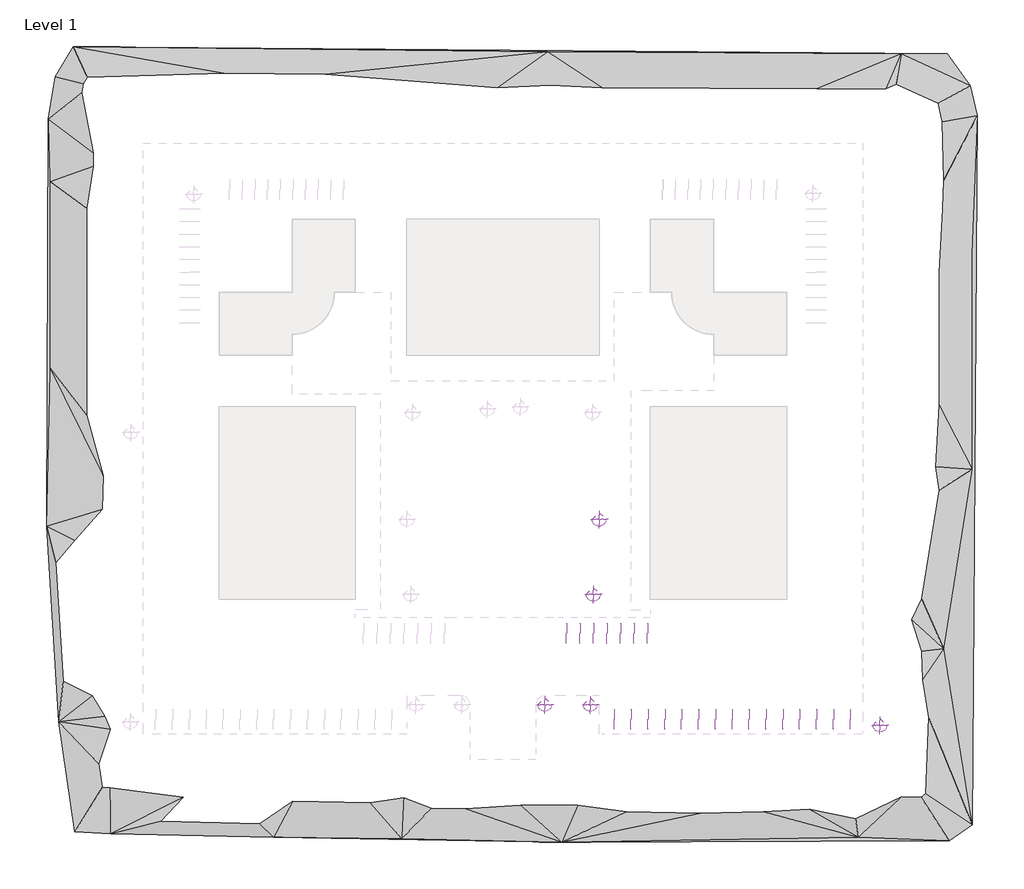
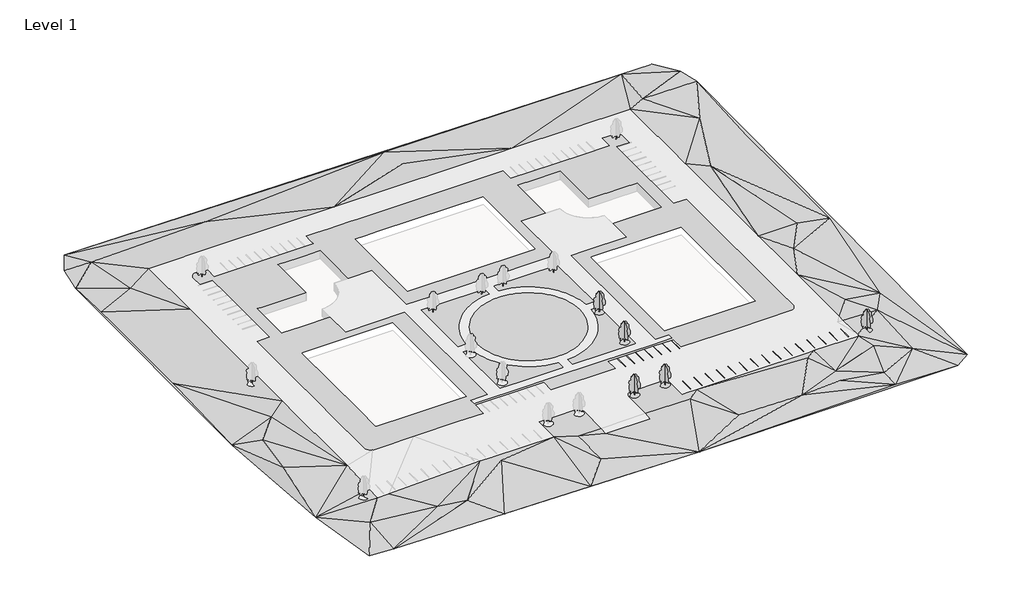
# One storey, part 2 of 3: 23 proxies, 5 geographic elements.
"""IFC4 building model written with IfcOpenShell, lengths in millimetres."""

from ifc_helpers import new_model, si_unit, origin, place, context, project, spatial, triangles, transform, mapped, element, save
from components import m_parking_space_4800_x_2400mm_90_deg_2b7ae786, m_parking_space_4800_x_2400mm_90_deg_cf846cf7, m_rpc_tree_deciduous_red_ash_7_6_meters_40acba24

model = new_model("IFC4")

# Units and contexts
model_context = context("Model", 3, world=origin())
ifc_project = project(units=[si_unit("LENGTHUNIT", "METRE", prefix="MILLI")], contexts=[model_context])

# Site, building, storey
site = spatial("IfcSite", under=ifc_project)
building = spatial("IfcBuilding", under=site)
storey = spatial("IfcBuildingStorey", under=building, Name="Level 1", Elevation=0.0)

# Proxies
placement = place(None, origin())
element("IfcBuildingElementProxy", 1, Name="Building Element Proxy", at=placement, inside=storey, context=model_context, shape_type="Tessellation", body=[
    triangles([(-102169.9776123, 90842.6318115, 0.0), (-106385.301709, 83676.5947998, 0.0), (-108071.4220459, 73559.8262695, 0.0), (-108492.9591064, -22970.9839233, 0.0), (-105542.2368896, -69339.4931763, 0.0), (-101748.4498535, -95474.4700195, 0.0), (-93317.8109619, -95896.0070801, 0.0), (-54536.8711304, -96739.0718994, 0.0), (13751.2978455, -98003.6644775, 0.0), (105645.2538574, -97582.127417, 0.0), (111125.1705322, -93788.3403809, 0.0), (112389.7631104, 74402.8910889, 0.0), (110703.6427734, 81568.9281006, 0.0), (105223.7260986, 89156.5021729, 0.0), (-85535.6813232, -72322.6413208, 1983.1879601), (-85535.6813232, -67074.5988647, 2206.9487206), (-85535.6813232, -53825.1843384, 3049.9998779), (-85535.6813232, -14016.0200592, 3049.9998779), (-85535.6813232, 17541.3572021, 3049.9998779), (-85535.6813232, 42777.6354126, 3049.9998779), (-85535.6813232, 67885.3586792, 3049.9998779), (-60150.6587036, 67885.3586792, 3049.9998779), (-19981.6152283, 67885.3586792, 3049.9998779), (43350.9678589, 67885.3586792, 3049.9998779), (85152.3186768, 67885.3586792, 3049.9998779), (85152.3186768, 34057.6467407, 3049.9998779), (85152.3186768, -10563.9423981, 3049.9998779), (85152.3186768, -26828.7577515, 3049.9998779), (85152.3186768, -34557.1511353, 3049.9998779), (85152.3186768, -53151.4626709, 3049.9998779), (85152.3186768, -60490.0798462, 3049.9998779), (85152.3186768, -62436.5610352, 2858.9560158), (85152.3186768, -71605.2292969, 3049.9998779), (85152.3186768, -72322.6413208, 3049.9998779), (69215.7286377, -72322.6413208, 3049.9998779), (66812.228833, -72322.6413208, 3049.9998779), (27666.706604, -72322.6413208, 3049.9998779), (23909.6359314, -72322.6413208, 3049.9998779), (22616.3195251, -72322.6413208, 3049.9998779), (22616.3195251, -63177.6413818, 3049.9998779), (19669.4412598, -63177.6413818, 3049.9998779), (9771.5802979, -63177.6413818, 3049.9998779), (9351.1100327, -63219.0574585, 3049.9998779), (8946.7975021, -63341.7011353, 3049.9998779), (8574.1812927, -63540.8703735, 3049.9998779), (8247.5802979, -63808.9051758, 3049.9998779), (7979.546077, -64135.5038452, 3049.9998779), (7780.3785828, -64508.1229614, 3049.9998779), (7657.7319992, -64912.4331665, 3049.9998779), (7616.3188293, -65332.9051758, 3049.9998779), (7616.3188293, -75662.4746704, 3049.9998779), (7616.3188293, -78418.6459717, 2673.7301125), (-7999.6808945, -78418.6459717, 2673.7301125), (-7999.6808945, -75662.4746704, 3049.9998779), (-7999.6808945, -65332.9051758, 3049.9998779), (-8041.093483, -64912.4331665, 3049.9998779), (-8163.7406479, -64508.1229614, 3049.9998779), (-8362.9081421, -64135.5038452, 3049.9998779), (-8630.942363, -63808.9051758, 3049.9998779), (-8957.5433578, -63540.8703735, 3049.9998779), (-9330.1595673, -63341.7011353, 3049.9998779), (-9734.4715164, -63219.0574585, 3049.9998779), (-10154.9429443, -63177.6413818, 3049.9998779), (-16508.3272339, -63177.6413818, 3049.9998779), (-22999.6798462, -63177.6413818, 3049.9998779), (-22999.6798462, -69598.8029297, 3049.9998779), (-22999.6798462, -72322.6413208, 3049.9998779), (-45175.5681152, -72322.6413208, 3049.9998779), (-48930.6040283, -72322.6413208, 3049.9998779), (-81381.8232422, -72322.6413208, 2006.5802822), (-35191.6798462, 5349.3572021, 3049.9998779), (-67499.679895, 5349.3572021, 3049.9998779), (-67499.679895, -30046.6427307, 3049.9998779), (-67499.679895, -40071.9028931, 3049.9998779), (-67499.679895, -40266.6444946, 3049.9998779), (-67364.8788208, -40266.6444946, 3049.9998779), (-56001.1957031, -40266.6444946, 3049.9998779), (-35191.6798462, -40266.6444946, 3049.9998779), (22616.3195251, 17541.3572021, 3049.9998779), (22616.3195251, 49849.357251, 3049.9998779), (-14525.1052643, 49849.357251, 3049.9998779), (-19503.6444031, 49849.357251, 3049.9998779), (-22999.6798462, 49849.357251, 3049.9998779), (-22999.6798462, 17541.3572021, 3049.9998779), (-18647.4536407, 17541.3572021, 3049.9998779), (-4750.8262939, 17541.3572021, 3049.9998779), (34808.3195251, -40266.6444946, 3049.9998779), (67116.3172485, -40266.6444946, 3049.9998779), (67116.3172485, 5349.3572021, 3049.9998779), (34808.3195251, 5349.3572021, 3049.9998779), (-76390.6813843, 17541.3572021, 3049.9998779), (-76390.6813843, -2590.5180405, 3049.9998779), (-76390.6813843, -22144.2111328, 3049.9998779), (-76390.6813843, -27227.4310913, 3049.9998779), (-76390.6813843, -48539.3813965, 3049.9998779), (-76349.2699585, -48959.8534058, 3049.9998779), (-76226.6216309, -49364.1636108, 3049.9998779), (-76027.4523926, -49736.7780762, 3049.9998779), (-75759.4175903, -50063.3813965, 3049.9998779), (-75432.8189209, -50331.4161987, 3049.9998779), (-75060.2044556, -50530.585437, 3049.9998779), (-74655.8895996, -50653.2291138, 3049.9998779), (-74235.4175903, -50694.6405396, 3049.9998779), (-60146.5705811, -50694.6405396, 3049.9998779), (-44268.6885864, -50694.6405396, 3049.9998779), (-35191.6798462, -50694.6405396, 3049.9998779), (-35191.6798462, -45694.6434082, 3049.9998779), (-16971.6419769, -45694.6434082, 3049.9998779), (-11191.6808258, -45694.6434082, 3049.9998779), (-11191.6808258, -50266.6434082, 3049.9998779), (11808.3187683, -50266.6434082, 3049.9998779), (11808.3187683, -45694.6434082, 3049.9998779), (14380.2350372, -45694.6434082, 3049.9998779), (27601.8896301, -45694.6434082, 3049.9998779), (34808.3195251, -45694.6434082, 3049.9998779), (34808.3195251, -50266.6434082, 3049.9998779), (55536.4473267, -50266.6434082, 3049.9998779), (73852.0595947, -50266.6434082, 3049.9998779), (74272.5269531, -50225.2319824, 3049.9998779), (74676.8418091, -50102.5836548, 3049.9998779), (75049.4562744, -49903.4144165, 3049.9998779), (75376.0595947, -49635.3796143, 3049.9998779), (75644.0897461, -49308.7809448, 3049.9998779), (75843.2589844, -48936.1618286, 3049.9998779), (75965.907312, -48531.8516235, 3049.9998779), (76007.3187378, -48111.3796143, 3049.9998779), (76007.3187378, -40266.6444946, 3049.9998779), (76007.3187378, -34066.0741333, 3049.9998779), (76007.3187378, 6598.6321106, 3049.9998779), (76007.3187378, 17541.3572021, 3049.9998779), (71435.3187378, 17541.3572021, 3049.9998779), (71435.3187378, 45158.1180176, 3049.9998779), (71435.3187378, 52541.3557251, 3049.9998779), (76007.3187378, 52541.3557251, 3049.9998779), (76007.3187378, 56585.0949463, 3049.9998779), (75965.907312, 57005.5669556, 3049.9998779), (75843.2589844, 57409.8771606, 3049.9998779), (75644.0897461, 57782.4962769, 3049.9998779), (75376.0595947, 58109.0949463, 3049.9998779), (75049.4562744, 58377.1297485, 3049.9998779), (74676.8418091, 58576.2989868, 3049.9998779), (74272.5269531, 58698.9426636, 3049.9998779), (73852.0595947, 58740.3587402, 3049.9998779), (69808.3203735, 58740.3587402, 3049.9998779), (69808.3203735, 54168.3587402, 3049.9998779), (60301.2448608, 54168.3587402, 3049.9998779), (50660.0054443, 54168.3587402, 3049.9998779), (41448.958374, 54168.3587402, 3049.9998779), (34808.3195251, 54168.3587402, 3049.9998779), (34808.3195251, 58740.3587402, 3049.9998779), (-17214.9375916, 58740.3587402, 3049.9998779), (-19739.2625793, 58740.3587402, 3049.9998779), (-27301.2963501, 58740.3587402, 3049.9998779), (-31889.525592, 58740.3587402, 3049.9998779), (-35191.6798462, 58740.3587402, 3049.9998779), (-35191.6798462, 56204.3786499, 3049.9998779), (-35191.6798462, 54168.3587402, 3049.9998779), (-37842.8319763, 54168.3587402, 3049.9998779), (-67067.1993164, 54168.3587402, 3049.9998779), (-70191.68302, 54168.3587402, 3049.9998779), (-70191.68302, 57954.0206909, 3049.9998779), (-70191.68302, 58740.3587402, 3049.9998779), (-74235.4175903, 58740.3587402, 3049.9998779), (-74655.8895996, 58698.9426636, 3049.9998779), (-75060.2044556, 58576.2989868, 3049.9998779), (-75432.8189209, 58377.1297485, 3049.9998779), (-75759.4175903, 58109.0949463, 3049.9998779), (-76027.4523926, 57782.4962769, 3049.9998779), (-76226.6216309, 57409.8771606, 3049.9998779), (-76349.2699585, 57005.5669556, 3049.9998779), (-76390.6813843, 56585.0949463, 3049.9998779), (-76390.6813843, 52541.3557251, 3049.9998779), (-75664.1257324, 52541.3557251, 3049.9998779), (-71818.6813843, 52541.3557251, 3049.9998779), (-71818.6813843, 44745.1385742, 3049.9998779), (-71818.6813843, 28075.6955933, 3049.9998779), (-71818.6813843, 17541.3572021, 3049.9998779), (67116.3172485, 17541.3572021, 3049.9998779), (49808.3178955, 17541.3572021, 3049.9998779), (49808.3178955, 9180.7314789, 3049.9998779), (35210.9461121, 9180.7314789, 3049.9998779), (30133.6467224, 9180.7314789, 3049.9998779), (30133.6467224, -27435.9834778, 3049.9998779), (30133.6467224, -42819.2700806, 3049.9998779), (34808.3195251, -42819.2700806, 3049.9998779), (34808.3195251, -44694.6439819, 3049.9998779), (27740.5509338, -44694.6439819, 3049.9998779), (14077.7000153, -44694.6439819, 3049.9998779), (11808.3187683, -44694.6439819, 3049.9998779), (-11191.6808258, -44694.6439819, 3049.9998779), (-16998.1438477, -44694.6439819, 3049.9998779), (-35191.6798462, -44694.6439819, 3049.9998779), (-35191.6798462, -42694.6404785, 3049.9998779), (-29191.6809631, -42694.6404785, 3049.9998779), (-29191.6809631, 8305.3575851, 3049.9998779), (-50191.680542, 8305.3575851, 3049.9998779), (-50191.680542, 17541.3572021, 3049.9998779), (-60277.078894, 17541.3572021, 3049.9998779), (-67499.679895, 17541.3572021, 3049.9998779), (-67499.679895, 31392.5861572, 3049.9998779), (-67499.679895, 32541.3578979, 3049.9998779), (-66003.8409668, 32541.3578979, 3049.9998779), (-50191.680542, 32541.3578979, 3049.9998779), (-50191.680542, 44684.7283081, 3049.9998779), (-50191.680542, 49849.357251, 3049.9998779), (-43466.7003296, 49849.357251, 3049.9998779), (-35191.6798462, 49849.357251, 3049.9998779), (-35191.6798462, 48882.337207, 3049.9998779), (-35191.6798462, 32541.3578979, 3049.9998779), (-26831.0552856, 32541.3578979, 3049.9998779), (-26831.0552856, 11541.3571564, 3049.9998779), (-18488.44823, 11541.3571564, 3049.9998779), (-2935.6202316, 11541.3571564, 3049.9998779), (26168.9445374, 11541.3571564, 3049.9998779), (26168.9445374, 32541.3578979, 3049.9998779), (34808.3195251, 32541.3578979, 3049.9998779), (34808.3195251, 49849.357251, 3049.9998779), (40850.0833008, 49849.357251, 3049.9998779), (49808.3178955, 49849.357251, 3049.9998779), (49808.3178955, 32541.3578979, 3049.9998779), (62183.8555298, 32541.3578979, 3049.9998779), (67116.3172485, 32541.3578979, 3049.9998779), (67116.3172485, 23284.5205994, 3049.9998779), (-21426.7688782, -15958.6421814, 3049.9998779), (-21275.5246216, -14517.4743347, 3049.9998779), (-21026.5863281, -13089.9335632, 3049.9998779), (-20681.1097412, -11682.6357422, 3049.9998779), (-20240.6924377, -10302.1014038, 3049.9998779), (-19707.3761536, -8954.727832, 3049.9998779), (-19083.6328308, -7646.7576691, 3049.9998779), (-18372.351828, -6384.2515915, 3049.9998779), (-18027.3240509, -5858.9429581, 3049.9998779), (-17576.8294556, -5173.0592422, 3049.9998779), (-16700.751535, -4018.7939415, 3049.9998779), (-15748.177121, -2926.8027466, 3049.9998779), (-14723.5210602, -1902.1463951, 3049.9998779), (-13631.5295746, -949.5721264, 3049.9998779), (-12477.2639832, -73.4940514, 3049.9998779), (-11266.0716339, 722.0285299, 3049.9998779), (-10003.5661377, 1433.3094601, 3049.9998779), (-8695.5959747, 2057.0529282, 3049.9998779), (-7348.222403, 2590.3689217, 3049.9998779), (-5967.6880646, 3030.7859344, 3049.9998779), (-4560.3902435, 3376.2636841, 3049.9998779), (-3132.8497627, 3625.2011055, 3049.9998779), (-1691.6808987, 3776.4450714, 3049.9998779), (-1691.6808987, 6776.4450943, 3049.9998779), (-18362.1733795, 6776.4450943, 3049.9998779), (-24426.7694824, 6776.4450943, 3049.9998779), (-24426.7694824, -15958.6421814, 3049.9998779), (-21426.7688782, -18958.6427856, 3049.9998779), (-24426.7694824, -18958.6427856, 3049.9998779), (-24426.7694824, -41693.72948, 3049.9998779), (-17077.6703888, -41693.72948, 3049.9998779), (-1691.6808987, -41693.72948, 3049.9998779), (-1691.6808987, -38693.7312012, 3049.9998779), (-3132.8497627, -38542.4869446, 3049.9998779), (-4560.3902435, -38293.5486511, 3049.9998779), (-5967.6880646, -37948.0720642, 3049.9998779), (-7348.222403, -37507.6547607, 3049.9998779), (-8695.5959747, -36974.3384766, 3049.9998779), (-10003.5661377, -36350.5951538, 3049.9998779), (-11266.0716339, -35639.3129883, 3049.9998779), (-12477.2639832, -34843.7917786, 3049.9998779), (-13631.5295746, -33967.7126953, 3049.9998779), (-14723.5210602, -33015.1382813, 3049.9998779), (-15748.177121, -31990.4822205, 3049.9998779), (-16700.751535, -30898.4907349, 3049.9998779), (-17387.7409973, -29993.3576111, 3049.9998779), (-17576.8294556, -29744.2263062, 3049.9998779), (-18372.351828, -28533.0327942, 3049.9998779), (-19083.6328308, -27270.5284607, 3049.9998779), (-19707.3761536, -25962.557135, 3049.9998779), (-20240.6924377, -24615.1835632, 3049.9998779), (-20681.1097412, -23234.6492249, 3049.9998779), (-21026.5863281, -21827.3514038, 3049.9998779), (-21275.5246216, -20399.8106323, 3049.9998779), (1308.3191242, 3776.4450714, 3049.9998779), (2749.4876976, 3625.2011055, 3049.9998779), (4177.0284691, 3376.2636841, 3049.9998779), (5584.3259995, 3030.7859344, 3049.9998779), (6964.8603378, 2590.3689217, 3049.9998779), (8312.2339096, 2057.0529282, 3049.9998779), (9620.2040726, 1433.3094601, 3049.9998779), (10882.7101501, 722.0285299, 3049.9998779), (12093.9024994, -73.4940514, 3049.9998779), (13248.1680908, -949.5721264, 3049.9998779), (14340.1584137, -1902.1463951, 3049.9998779), (15364.8156372, -2926.8027466, 3049.9998779), (16317.3900513, -4018.7939415, 3049.9998779), (17193.4679718, -5173.0592422, 3049.9998779), (17988.9903442, -6384.2515915, 3049.9998779), (18700.271347, -7646.7576691, 3049.9998779), (19324.0146698, -8954.727832, 3049.9998779), (19857.3297913, -10302.1014038, 3049.9998779), (20297.7470947, -11682.6357422, 3049.9998779), (20643.2260071, -13089.9335632, 3049.9998779), (20892.1619751, -14517.4743347, 3049.9998779), (21043.4062317, -15958.6421814, 3049.9998779), (24043.4068359, -15958.6421814, 3049.9998779), (24043.4068359, 6776.4450943, 3049.9998779), (1308.3191242, 6776.4450943, 3049.9998779), (21043.4062317, -18958.6427856, 3049.9998779), (20892.1619751, -20399.8106323, 3049.9998779), (20643.2260071, -21827.3514038, 3049.9998779), (20297.7470947, -23234.6492249, 3049.9998779), (19857.3297913, -24615.1835632, 3049.9998779), (19324.0146698, -25962.557135, 3049.9998779), (18700.271347, -27270.5284607, 3049.9998779), (17988.9903442, -28533.0327942, 3049.9998779), (17193.4679718, -29744.2263062, 3049.9998779), (16317.3900513, -30898.4907349, 3049.9998779), (15364.8156372, -31990.4822205, 3049.9998779), (14340.1584137, -33015.1382813, 3049.9998779), (13248.1680908, -33967.7126953, 3049.9998779), (12093.9024994, -34843.7917786, 3049.9998779), (11262.6544006, -35389.7631042, 3049.9998779), (10882.7101501, -35639.3129883, 3049.9998779), (9620.2040726, -36350.5951538, 3049.9998779), (8312.2339096, -36974.3384766, 3049.9998779), (6964.8603378, -37507.6547607, 3049.9998779), (5584.3259995, -37948.0720642, 3049.9998779), (4177.0284691, -38293.5486511, 3049.9998779), (2749.4876976, -38542.4869446, 3049.9998779), (1308.3191242, -38693.7312012, 3049.9998779), (1308.3191242, -41693.72948, 3049.9998779), (13169.8217102, -41693.72948, 3049.9998779), (24043.4068359, -41693.72948, 3049.9998779), (24043.4068359, -18958.6427856, 3049.9998779), (-18479.6813232, -17458.6424835, 3049.9998779), (-18430.8936035, -18793.5807678, 3049.9998779), (-18284.7920563, -20121.3973938, 3049.9998779), (-18042.1568665, -21435.0055847, 3049.9998779), (-17704.2809784, -22727.3987915, 3049.9998779), (-17569.8531372, -23121.439856, 3049.9998779), (-17272.9677704, -23991.6820862, 3049.9998779), (-16750.5182648, -25221.1070435, 3049.9998779), (-16139.7206635, -26409.1159241, 3049.9998779), (-15443.8329071, -27549.3719055, 3049.9998779), (-14666.5687225, -28635.7869873, 3049.9998779), (-13812.0743683, -29662.5684998, 3049.9998779), (-12884.9100311, -30624.2377075, 3049.9998779), (-11890.0207581, -31515.6623657, 3049.9998779), (-10832.7166901, -32332.0846252, 3049.9998779), (-9718.6375992, -33069.1535889, 3049.9998779), (-8553.7284714, -33722.9322876, 3049.9998779), (-7344.2040436, -34289.9325623, 3049.9998779), (-6096.5179916, -34767.133667, 3049.9998779), (-4817.3265953, -35151.9845947, 3049.9998779), (-3513.4556007, -35442.4343079, 3049.9998779), (-2191.8615601, -35636.9317383, 3049.9998779), (-859.5957144, -35734.4420654, 3049.9998779), (476.2338309, -35734.4420654, 3049.9998779), (1808.4997856, -35636.9317383, 3049.9998779), (3130.0938263, -35442.4343079, 3049.9998779), (4433.9648209, -35151.9845947, 3049.9998779), (5713.1559265, -34767.133667, 3049.9998779), (6960.8419785, -34289.9325623, 3049.9998779), (8170.3664063, -33722.9322876, 3049.9998779), (9335.2761154, -33069.1535889, 3049.9998779), (10356.2399597, -32393.6901672, 3049.9998779), (10449.3552063, -32332.0846252, 3049.9998779), (11506.6592743, -31515.6623657, 3049.9998779), (12501.5473846, -30624.2377075, 3049.9998779), (13428.7128845, -29662.5684998, 3049.9998779), (14283.2072388, -28635.7869873, 3049.9998779), (15060.4714233, -27549.3719055, 3049.9998779), (15756.3591797, -26409.1159241, 3049.9998779), (16367.156781, -25221.1070435, 3049.9998779), (16889.6051239, -23991.6820862, 3049.9998779), (17320.9183319, -22727.3987915, 3049.9998779), (17658.79422, -21435.0055847, 3049.9998779), (17901.4305725, -20121.3973938, 3049.9998779), (18047.5321198, -18793.5807678, 3049.9998779), (18096.3186768, -17458.6424835, 3049.9998779), (18047.5321198, -16123.7041992, 3049.9998779), (17901.4305725, -14795.888736, 3049.9998779), (17658.79422, -13482.2793823, 3049.9998779), (17320.9183319, -12189.8861755, 3049.9998779), (16889.6051239, -10925.6040436, 3049.9998779), (16367.156781, -9696.1785049, 3049.9998779), (15756.3591797, -8508.169043, 3049.9998779), (15060.4714233, -7367.9142242, 3049.9998779), (14283.2072388, -6281.4979797, 3049.9998779), (13428.7128845, -5254.7164673, 3049.9998779), (12501.5473846, -4293.0478409, 3049.9998779), (11506.6592743, -3401.623764, 3049.9998779), (10449.3552063, -2585.1997604, 3049.9998779), (9335.2761154, -1848.1322502, 3049.9998779), (8170.3664063, -1194.3534061, 3049.9998779), (6960.8419785, -627.3516054, 3049.9998779), (5713.1559265, -150.152054, 3049.9998779), (4433.9648209, 234.699228, 3049.9998779), (3130.0938263, 525.1488685, 3049.9998779), (1808.4997856, 719.6472073, 3049.9998779), (476.2338309, 817.156517, 3049.9998779), (308.8186864, 817.156517, 3049.9998779), (-859.5957144, 817.156517, 3049.9998779), (-2191.8615601, 719.6472073, 3049.9998779), (-3513.4556007, 525.1488685, 3049.9998779), (-4817.3265953, 234.699228, 3049.9998779), (-6096.5179916, -150.152054, 3049.9998779), (-7344.2040436, -627.3516054, 3049.9998779), (-8553.7284714, -1194.3534061, 3049.9998779), (-9718.6375992, -1848.1322502, 3049.9998779), (-10832.7166901, -2585.1997604, 3049.9998779), (-11890.0207581, -3401.623764, 3049.9998779), (-12884.9100311, -4293.0478409, 3049.9998779), (-13812.0743683, -5254.7164673, 3049.9998779), (-14666.5687225, -6281.4979797, 3049.9998779), (-15443.8329071, -7367.9142242, 3049.9998779), (-16139.7206635, -8508.169043, 3049.9998779), (-16750.5182648, -9696.1785049, 3049.9998779), (-17272.9677704, -10925.6040436, 3049.9998779), (-17704.2809784, -12189.8861755, 3049.9998779), (-17845.2584198, -12729.1323303, 3049.9998779), (-18042.1568665, -13482.2793823, 3049.9998779), (-18284.7920563, -14795.888736, 3049.9998779), (-18430.8936035, -16123.7041992, 3049.9998779), (10379.0420563, 89578.0392334, 0.0), (94263.892749, 89156.5021729, 0.0), (111125.1705322, 42366.4651611, 0.0), (111125.1705322, -9481.9619293, 0.0), (104380.6612793, -52056.6829834, 0.0), (84147.1242188, -96739.0718994, 0.0), (-24186.5748413, -97160.5996582, 0.0), (-107649.8942871, 14545.3575165, 0.0), (-107649.8942871, 58806.2105347, 0.0), (-97954.6628174, 81568.9281006, 1524.999939), (11222.1068756, 79461.2707031, 1524.999939), (102273.0038818, 55012.4234985, 1524.999939), (100165.3371826, -8638.8976913, 1524.999939), (98057.6797852, -61330.3866943, 1524.999939), (97214.6149658, -84514.6459717, 1524.999939), (83304.0593994, -91259.1552246, 1524.999939), (33141.7654358, -88729.9607666, 1524.999939), (-15334.4047028, -87886.8959473, 1524.999939), (-71398.1489136, -84936.1737305, 1524.999939), (-93493.1118896, -82017.8774414, 1524.999939), (-100052.7580078, -27195.8632507, 1524.999939), (-91631.6813232, -17912.5996582, 1524.999939), (-94582.40354, 63443.0577393, 1524.999939), (-56644.5331787, 82833.5299805, 1524.999939), (70658.1057129, -83250.0440918, 1524.999939), (55482.9575684, -89151.4978271, 1524.999939), (69393.5084839, -88308.4330078, 1524.999939), (91248.3186768, 70805.124646, 3049.9998779), (91248.3186768, 29124.4641357, 3049.9998779), (91248.3186768, -22004.4080383, 3049.9998779), (65599.7214478, -74819.4098511, 3049.9998779), (23446.5316406, -75662.4746704, 3049.9998779), (-16177.4683594, -75662.4746704, 3049.9998779), (-43155.510022, -75240.9422607, 3049.9998779), (-62967.510022, -88535.4052002, 3049.9998779), (-103013.0424316, -44993.4350464, 3049.9998779), (86676.3186768, -79034.7292969, 3049.9998779), (91248.3186768, -53547.5873291, 3049.9998779)], [[5, 6, 439], [439, 6, 7], [5, 439, 15], [15, 16, 5], [439, 70, 15], [439, 7, 438], [70, 439, 438], [5, 16, 17], [97, 98, 99], [100, 101, 95], [96, 99, 100], [97, 99, 96], [102, 95, 101], [5, 17, 455], [7, 454, 438], [454, 7, 8], [454, 8, 453], [438, 454, 69], [453, 67, 68], [453, 69, 454], [68, 69, 453], [453, 426, 67], [453, 8, 426], [8, 9, 426], [76, 103, 104], [77, 104, 105], [107, 108, 191], [64, 65, 66], [103, 95, 102], [66, 67, 452], [70, 438, 69], [107, 105, 106], [96, 100, 95], [455, 17, 440], [75, 95, 103], [77, 76, 104], [103, 76, 75], [107, 192, 105], [74, 95, 75], [4, 440, 441], [440, 4, 455], [440, 17, 441], [4, 441, 427], [74, 73, 94], [93, 94, 73], [92, 93, 73], [95, 74, 94], [441, 17, 18], [105, 192, 193], [455, 4, 5], [193, 194, 78], [78, 77, 105], [78, 105, 193], [273, 274, 253], [192, 107, 191], [274, 252, 253], [272, 253, 271], [272, 273, 253], [252, 277, 251], [277, 252, 276], [274, 275, 252], [275, 276, 252], [78, 194, 71], [67, 426, 437], [55, 63, 64], [437, 452, 67], [64, 452, 55], [61, 62, 63], [109, 112, 190], [60, 61, 63], [452, 437, 53], [267, 253, 254], [190, 191, 108], [254, 261, 262], [263, 254, 262], [255, 259, 260], [190, 108, 109], [254, 263, 264], [63, 58, 59], [58, 63, 57], [109, 110, 111], [56, 63, 55], [57, 63, 56], [55, 452, 54], [63, 59, 60], [261, 254, 260], [260, 254, 255], [257, 258, 255], [258, 259, 255], [54, 452, 53], [437, 9, 53], [271, 253, 270], [253, 269, 270], [268, 253, 267], [337, 338, 335], [268, 269, 253], [419, 330, 416], [335, 331, 332], [335, 330, 331], [337, 335, 336], [333, 334, 335], [332, 333, 335], [335, 350, 351], [335, 338, 339], [264, 265, 254], [350, 335, 349], [349, 335, 348], [347, 348, 335], [335, 346, 347], [342, 335, 341], [335, 342, 343], [335, 345, 346], [335, 344, 345], [344, 335, 343], [335, 340, 341], [335, 339, 340], [265, 266, 254], [267, 254, 266], [416, 330, 335], [416, 335, 361], [64, 66, 452], [426, 9, 437], [427, 18, 19], [18, 427, 441], [427, 19, 20], [177, 72, 199], [92, 72, 91], [72, 177, 91], [199, 176, 177], [173, 174, 171], [176, 200, 201], [200, 176, 199], [159, 174, 175], [201, 175, 176], [202, 175, 201], [427, 20, 428], [198, 196, 197], [196, 198, 72], [71, 194, 195], [195, 196, 71], [207, 208, 83], [72, 92, 73], [196, 72, 71], [175, 204, 159], [204, 202, 203], [204, 175, 202], [158, 205, 206], [83, 157, 207], [205, 159, 204], [209, 210, 208], [198, 199, 72], [158, 206, 207], [166, 170, 165], [171, 165, 170], [168, 169, 167], [166, 167, 169], [169, 170, 166], [172, 173, 171], [2, 3, 429], [428, 3, 427], [442, 3, 428], [442, 21, 429], [442, 20, 21], [443, 1, 429], [1, 2, 429], [443, 429, 21], [429, 3, 442], [20, 442, 428], [171, 163, 164], [171, 174, 163], [161, 163, 160], [174, 160, 163], [159, 205, 158], [157, 154, 156], [159, 160, 174], [171, 164, 165], [161, 162, 163], [22, 443, 21], [155, 156, 154], [443, 22, 23], [157, 153, 154], [153, 157, 83], [207, 157, 158], [1, 443, 420], [427, 3, 4], [250, 227, 228], [226, 227, 250], [417, 418, 416], [414, 415, 416], [403, 404, 397], [250, 228, 249], [249, 228, 229], [230, 231, 249], [232, 233, 249], [231, 232, 249], [249, 229, 230], [412, 416, 411], [416, 412, 413], [409, 410, 416], [408, 409, 416], [410, 411, 416], [414, 416, 413], [235, 236, 248], [234, 235, 248], [407, 416, 406], [405, 406, 416], [408, 416, 407], [405, 416, 404], [418, 419, 416], [233, 234, 249], [84, 211, 212], [241, 242, 248], [248, 249, 234], [86, 85, 212], [212, 85, 84], [236, 237, 248], [152, 153, 83], [210, 84, 83], [83, 208, 210], [82, 81, 151], [151, 152, 82], [81, 80, 151], [82, 152, 83], [80, 150, 151], [237, 238, 248], [210, 211, 84], [240, 248, 239], [401, 402, 397], [397, 400, 401], [402, 403, 397], [399, 400, 397], [242, 247, 248], [243, 247, 242], [247, 243, 244], [212, 213, 86], [247, 244, 245], [248, 240, 241], [239, 248, 238], [86, 213, 79], [397, 404, 416], [250, 225, 226], [250, 224, 225], [443, 23, 420], [352, 335, 351], [42, 49, 50], [50, 39, 42], [48, 49, 42], [42, 47, 48], [451, 51, 52], [325, 326, 324], [323, 324, 326], [322, 326, 327], [323, 326, 322], [255, 256, 257], [45, 42, 44], [42, 45, 46], [44, 42, 43], [46, 47, 42], [39, 50, 51], [189, 190, 112], [319, 320, 327], [327, 321, 322], [320, 321, 327], [112, 113, 188], [314, 327, 328], [188, 189, 112], [319, 327, 318], [188, 113, 187], [109, 111, 112], [52, 53, 9], [361, 352, 353], [354, 361, 353], [327, 317, 318], [361, 354, 355], [361, 355, 356], [361, 357, 358], [361, 358, 359], [361, 397, 416], [362, 363, 361], [361, 359, 360], [361, 356, 357], [364, 361, 363], [315, 316, 327], [328, 313, 314], [328, 311, 312], [312, 313, 328], [315, 327, 314], [367, 361, 366], [361, 367, 368], [369, 361, 368], [370, 371, 361], [369, 370, 361], [365, 366, 361], [310, 311, 328], [364, 365, 361], [327, 316, 317], [372, 361, 371], [52, 9, 451], [352, 361, 335], [436, 37, 451], [436, 451, 9], [436, 9, 445], [445, 37, 436], [444, 450, 445], [444, 446, 435], [450, 37, 445], [35, 450, 444], [444, 445, 446], [445, 425, 446], [36, 450, 35], [41, 39, 40], [41, 42, 39], [38, 39, 451], [451, 37, 38], [450, 36, 37], [35, 444, 34], [39, 51, 451], [444, 456, 34], [425, 435, 446], [434, 435, 425], [10, 11, 434], [456, 434, 34], [456, 435, 434], [434, 433, 34], [434, 425, 10], [425, 9, 10], [433, 434, 11], [457, 30, 31], [433, 31, 32], [433, 457, 31], [433, 33, 34], [30, 457, 29], [424, 457, 433], [433, 11, 424], [433, 32, 33], [11, 423, 424], [444, 435, 456], [9, 425, 445], [29, 457, 424], [187, 114, 115], [115, 186, 187], [115, 116, 117], [185, 186, 117], [115, 117, 186], [184, 185, 87], [309, 328, 308], [308, 328, 307], [183, 184, 87], [307, 329, 306], [328, 329, 307], [310, 328, 309], [185, 117, 87], [113, 114, 187], [88, 117, 118], [118, 119, 126], [120, 126, 119], [125, 121, 122], [123, 124, 122], [120, 121, 126], [125, 122, 124], [88, 126, 127], [118, 126, 88], [89, 88, 128], [128, 88, 127], [126, 121, 125], [449, 28, 29], [29, 424, 449], [117, 88, 87], [424, 423, 449], [28, 449, 27], [379, 380, 397], [397, 378, 379], [397, 361, 377], [397, 377, 378], [361, 374, 375], [373, 374, 361], [381, 397, 380], [385, 397, 384], [383, 384, 397], [397, 382, 383], [301, 289, 290], [382, 397, 381], [397, 385, 386], [361, 376, 377], [304, 305, 329], [304, 329, 303], [301, 292, 293], [301, 291, 292], [300, 296, 297], [295, 296, 300], [300, 301, 295], [300, 297, 298], [361, 375, 376], [301, 290, 291], [392, 397, 391], [396, 397, 395], [393, 394, 397], [395, 397, 394], [397, 392, 393], [397, 398, 399], [247, 245, 246], [280, 281, 302], [278, 279, 302], [280, 302, 279], [302, 281, 282], [397, 389, 390], [389, 397, 388], [301, 286, 287], [287, 288, 301], [397, 390, 391], [301, 283, 284], [301, 284, 285], [24, 420, 430], [430, 420, 23], [301, 285, 286], [302, 282, 301], [301, 282, 283], [301, 288, 289], [388, 397, 387], [386, 387, 397], [298, 299, 300], [361, 372, 373], [294, 295, 301], [182, 90, 181], [301, 293, 294], [180, 181, 90], [183, 90, 182], [87, 90, 183], [79, 213, 214], [79, 215, 80], [214, 215, 79], [217, 215, 216], [80, 215, 217], [179, 180, 178], [89, 131, 178], [131, 89, 129], [178, 131, 223], [449, 432, 27], [329, 305, 306], [27, 448, 26], [27, 432, 448], [130, 131, 129], [129, 89, 128], [89, 180, 90], [448, 432, 423], [222, 132, 221], [132, 222, 131], [223, 131, 222], [220, 221, 219], [448, 431, 26], [423, 422, 448], [132, 146, 221], [423, 12, 422], [178, 180, 89], [448, 422, 431], [217, 218, 149], [149, 218, 148], [149, 150, 80], [147, 219, 146], [133, 145, 132], [147, 148, 219], [221, 146, 219], [219, 148, 218], [430, 23, 24], [133, 143, 145], [142, 143, 135], [143, 144, 145], [132, 145, 146], [143, 133, 135], [149, 80, 217], [138, 140, 137], [136, 137, 141], [136, 141, 142], [136, 142, 135], [138, 139, 140], [140, 141, 137], [25, 447, 421], [447, 25, 431], [25, 421, 24], [13, 421, 447], [421, 14, 420], [14, 421, 13], [13, 447, 12], [431, 12, 447], [431, 422, 12], [135, 133, 134], [431, 25, 26], [24, 421, 420], [423, 11, 12], [423, 432, 449], [420, 14, 1]], closed=False),
])
m_parking_space_4800_x_2400mm_90_deg_shape = m_parking_space_4800_x_2400mm_90_deg_2b7ae786(model_context)
element("IfcBuildingElementProxy", 2, Name="M_Parking Space : 4800 x 2400mm - 90 deg", ObjectType="M_Parking Space : 4800 x 2400mm - 90 deg", at=placement, inside=storey, context=model_context, shape_type="MappedRepresentation", body=[
    mapped(m_parking_space_4800_x_2400mm_90_deg_shape, transform((26208.3190688, -71177.6426237, 3050.7803686), x_axis=(-1.0, 0.0, 0.0), y_axis=(0.0, -1.0, 0.0), z_axis=(0.0, 0.0, 1.0))),
])
element("IfcBuildingElementProxy", 3, Name="M_Parking Space : 4800 x 2400mm - 90 deg", ObjectType="M_Parking Space : 4800 x 2400mm - 90 deg", at=placement, inside=storey, context=model_context, shape_type="MappedRepresentation", body=[
    mapped(m_parking_space_4800_x_2400mm_90_deg_shape, transform((30208.3190688, -71177.6426237, 3050.7803686), x_axis=(-1.0, 0.0, 0.0), y_axis=(0.0, -1.0, 0.0), z_axis=(0.0, 0.0, 1.0))),
])
element("IfcBuildingElementProxy", 4, Name="M_Parking Space : 4800 x 2400mm - 90 deg", ObjectType="M_Parking Space : 4800 x 2400mm - 90 deg", at=placement, inside=storey, context=model_context, shape_type="MappedRepresentation", body=[
    mapped(m_parking_space_4800_x_2400mm_90_deg_shape, transform((34208.3190688, -71177.6426237, 3050.7803686), x_axis=(-1.0, 0.0, 0.0), y_axis=(0.0, -1.0, 0.0), z_axis=(0.0, 0.0, 1.0))),
])
element("IfcBuildingElementProxy", 5, Name="M_Parking Space : 4800 x 2400mm - 90 deg", ObjectType="M_Parking Space : 4800 x 2400mm - 90 deg", at=placement, inside=storey, context=model_context, shape_type="MappedRepresentation", body=[
    mapped(m_parking_space_4800_x_2400mm_90_deg_shape, transform((38208.3190688, -71177.6426237, 3050.7803686), x_axis=(-1.0, 0.0, 0.0), y_axis=(0.0, -1.0, 0.0), z_axis=(0.0, 0.0, 1.0))),
])
element("IfcBuildingElementProxy", 6, Name="M_Parking Space : 4800 x 2400mm - 90 deg", ObjectType="M_Parking Space : 4800 x 2400mm - 90 deg", at=placement, inside=storey, context=model_context, shape_type="MappedRepresentation", body=[
    mapped(m_parking_space_4800_x_2400mm_90_deg_shape, transform((42208.3190688, -71177.6426237, 3050.7803686), x_axis=(-1.0, 0.0, 0.0), y_axis=(0.0, -1.0, 0.0), z_axis=(0.0, 0.0, 1.0))),
])
element("IfcBuildingElementProxy", 7, Name="M_Parking Space : 4800 x 2400mm - 90 deg", ObjectType="M_Parking Space : 4800 x 2400mm - 90 deg", at=placement, inside=storey, context=model_context, shape_type="MappedRepresentation", body=[
    mapped(m_parking_space_4800_x_2400mm_90_deg_shape, transform((46208.3190688, -71177.6426237, 3050.7803686), x_axis=(-1.0, 0.0, 0.0), y_axis=(0.0, -1.0, 0.0), z_axis=(0.0, 0.0, 1.0))),
])
element("IfcBuildingElementProxy", 8, Name="M_Parking Space : 4800 x 2400mm - 90 deg", ObjectType="M_Parking Space : 4800 x 2400mm - 90 deg", at=placement, inside=storey, context=model_context, shape_type="MappedRepresentation", body=[
    mapped(m_parking_space_4800_x_2400mm_90_deg_shape, transform((50208.3190688, -71177.6426237, 3050.7803686), x_axis=(-1.0, 0.0, 0.0), y_axis=(0.0, -1.0, 0.0), z_axis=(0.0, 0.0, 1.0))),
])
element("IfcBuildingElementProxy", 9, Name="M_Parking Space : 4800 x 2400mm - 90 deg", ObjectType="M_Parking Space : 4800 x 2400mm - 90 deg", at=placement, inside=storey, context=model_context, shape_type="MappedRepresentation", body=[
    mapped(m_parking_space_4800_x_2400mm_90_deg_shape, transform((54208.3190688, -71177.6426237, 3050.7803686), x_axis=(-1.0, 0.0, 0.0), y_axis=(0.0, -1.0, 0.0), z_axis=(0.0, 0.0, 1.0))),
])
element("IfcBuildingElementProxy", 10, Name="M_Parking Space : 4800 x 2400mm - 90 deg", ObjectType="M_Parking Space : 4800 x 2400mm - 90 deg", at=placement, inside=storey, context=model_context, shape_type="MappedRepresentation", body=[
    mapped(m_parking_space_4800_x_2400mm_90_deg_shape, transform((58208.3190688, -71177.6426237, 3050.7803686), x_axis=(-1.0, 0.0, 0.0), y_axis=(0.0, -1.0, 0.0), z_axis=(0.0, 0.0, 1.0))),
])
element("IfcBuildingElementProxy", 11, Name="M_Parking Space : 4800 x 2400mm - 90 deg", ObjectType="M_Parking Space : 4800 x 2400mm - 90 deg", at=placement, inside=storey, context=model_context, shape_type="MappedRepresentation", body=[
    mapped(m_parking_space_4800_x_2400mm_90_deg_shape, transform((62208.3190688, -71177.6426237, 3050.7803686), x_axis=(-1.0, 0.0, 0.0), y_axis=(0.0, -1.0, 0.0), z_axis=(0.0, 0.0, 1.0))),
])
element("IfcBuildingElementProxy", 12, Name="M_Parking Space : 4800 x 2400mm - 90 deg", ObjectType="M_Parking Space : 4800 x 2400mm - 90 deg", at=placement, inside=storey, context=model_context, shape_type="MappedRepresentation", body=[
    mapped(m_parking_space_4800_x_2400mm_90_deg_shape, transform((66208.3190688, -71177.6426237, 3050.7803686), x_axis=(-1.0, 0.0, 0.0), y_axis=(0.0, -1.0, 0.0), z_axis=(0.0, 0.0, 1.0))),
])
element("IfcBuildingElementProxy", 13, Name="M_Parking Space : 4800 x 2400mm - 90 deg", ObjectType="M_Parking Space : 4800 x 2400mm - 90 deg", at=placement, inside=storey, context=model_context, shape_type="MappedRepresentation", body=[
    mapped(m_parking_space_4800_x_2400mm_90_deg_shape, transform((70208.3190688, -71177.6426237, 3050.7803686), x_axis=(-1.0, 0.0, 0.0), y_axis=(0.0, -1.0, 0.0), z_axis=(0.0, 0.0, 1.0))),
])
element("IfcBuildingElementProxy", 14, Name="M_Parking Space : 4800 x 2400mm - 90 deg", ObjectType="M_Parking Space : 4800 x 2400mm - 90 deg", at=placement, inside=storey, context=model_context, shape_type="MappedRepresentation", body=[
    mapped(m_parking_space_4800_x_2400mm_90_deg_shape, transform((74208.3190688, -71177.6426237, 3050.7803686), x_axis=(-1.0, 0.0, 0.0), y_axis=(0.0, -1.0, 0.0), z_axis=(0.0, 0.0, 1.0))),
])
element("IfcBuildingElementProxy", 15, Name="M_Parking Space : 4800 x 2400mm - 90 deg", ObjectType="M_Parking Space : 4800 x 2400mm - 90 deg", at=placement, inside=storey, context=model_context, shape_type="MappedRepresentation", body=[
    mapped(m_parking_space_4800_x_2400mm_90_deg_shape, transform((78208.3190688, -71177.6426237, 3050.7803686), x_axis=(-1.0, 0.0, 0.0), y_axis=(0.0, -1.0, 0.0), z_axis=(0.0, 0.0, 1.0))),
])
element("IfcBuildingElementProxy", 16, Name="M_Parking Space : 4800 x 2400mm - 90 deg", ObjectType="M_Parking Space : 4800 x 2400mm - 90 deg", at=placement, inside=storey, context=model_context, shape_type="MappedRepresentation", body=[
    mapped(m_parking_space_4800_x_2400mm_90_deg_shape, transform((82208.3190688, -71177.6426237, 3050.7803686), x_axis=(-1.0, 0.0, 0.0), y_axis=(0.0, -1.0, 0.0), z_axis=(0.0, 0.0, 1.0))),
])
m_parking_space_4800_x_2400mm_90_deg_2_shape = m_parking_space_4800_x_2400mm_90_deg_cf846cf7(model_context)
element("IfcBuildingElementProxy", 17, Name="M_Parking Space : 4800 x 2400mm - 90 deg", ObjectType="M_Parking Space : 4800 x 2400mm - 90 deg", at=placement, inside=storey, context=model_context, shape_type="MappedRepresentation", body=[
    mapped(m_parking_space_4800_x_2400mm_90_deg_2_shape, transform((14908.3190688, -45954.6449904, 3050.7803686), x_axis=(-1.0, 0.0, 0.0), y_axis=(0.0, -1.0, 0.0), z_axis=(0.0, 0.0, 1.0))),
])
element("IfcBuildingElementProxy", 18, Name="M_Parking Space : 4800 x 2400mm - 90 deg", ObjectType="M_Parking Space : 4800 x 2400mm - 90 deg", at=placement, inside=storey, context=model_context, shape_type="MappedRepresentation", body=[
    mapped(m_parking_space_4800_x_2400mm_90_deg_2_shape, transform((18108.3190688, -45954.6449904, 3050.7803686), x_axis=(-1.0, 0.0, 0.0), y_axis=(0.0, -1.0, 0.0), z_axis=(0.0, 0.0, 1.0))),
])
element("IfcBuildingElementProxy", 19, Name="M_Parking Space : 4800 x 2400mm - 90 deg", ObjectType="M_Parking Space : 4800 x 2400mm - 90 deg", at=placement, inside=storey, context=model_context, shape_type="MappedRepresentation", body=[
    mapped(m_parking_space_4800_x_2400mm_90_deg_2_shape, transform((21308.3190688, -45954.6449904, 3050.7803686), x_axis=(-1.0, 0.0, 0.0), y_axis=(0.0, -1.0, 0.0), z_axis=(0.0, 0.0, 1.0))),
])
element("IfcBuildingElementProxy", 20, Name="M_Parking Space : 4800 x 2400mm - 90 deg", ObjectType="M_Parking Space : 4800 x 2400mm - 90 deg", at=placement, inside=storey, context=model_context, shape_type="MappedRepresentation", body=[
    mapped(m_parking_space_4800_x_2400mm_90_deg_2_shape, transform((24508.3190688, -45954.6449904, 3050.7803686), x_axis=(-1.0, 0.0, 0.0), y_axis=(0.0, -1.0, 0.0), z_axis=(0.0, 0.0, 1.0))),
])
element("IfcBuildingElementProxy", 21, Name="M_Parking Space : 4800 x 2400mm - 90 deg", ObjectType="M_Parking Space : 4800 x 2400mm - 90 deg", at=placement, inside=storey, context=model_context, shape_type="MappedRepresentation", body=[
    mapped(m_parking_space_4800_x_2400mm_90_deg_2_shape, transform((27708.3190688, -45954.6449904, 3050.7803686), x_axis=(-1.0, 0.0, 0.0), y_axis=(0.0, -1.0, 0.0), z_axis=(0.0, 0.0, 1.0))),
])
element("IfcBuildingElementProxy", 22, Name="M_Parking Space : 4800 x 2400mm - 90 deg", ObjectType="M_Parking Space : 4800 x 2400mm - 90 deg", at=placement, inside=storey, context=model_context, shape_type="MappedRepresentation", body=[
    mapped(m_parking_space_4800_x_2400mm_90_deg_2_shape, transform((30908.3190688, -45954.6449904, 3050.7803686), x_axis=(-1.0, 0.0, 0.0), y_axis=(0.0, -1.0, 0.0), z_axis=(0.0, 0.0, 1.0))),
])
element("IfcBuildingElementProxy", 23, Name="M_Parking Space : 4800 x 2400mm - 90 deg", ObjectType="M_Parking Space : 4800 x 2400mm - 90 deg", at=placement, inside=storey, context=model_context, shape_type="MappedRepresentation", body=[
    mapped(m_parking_space_4800_x_2400mm_90_deg_2_shape, transform((34108.3190688, -45954.6449904, 3050.7803686), x_axis=(-1.0, 0.0, 0.0), y_axis=(0.0, -1.0, 0.0), z_axis=(0.0, 0.0, 1.0))),
])

# Geographic elements
m_rpc_tree_deciduous_red_ash_7_6_meters_shape = m_rpc_tree_deciduous_red_ash_7_6_meters_40acba24(model_context)
element("IfcGeographicElement", 24, ObjectType="M_RPC Tree - Deciduous : Red Ash - 7.6 Meters", at=placement, inside=storey, context=model_context, shape_type="MappedRepresentation", body=[
    mapped(m_rpc_tree_deciduous_red_ash_7_6_meters_shape, transform((21216.3190688, -39158.6426237, 3050.0), x_axis=(1.0, 0.0, 0.0), y_axis=(0.0, 1.0, 0.0), z_axis=(0.0, 0.0, 1.0))),
])
element("IfcGeographicElement", 25, ObjectType="M_RPC Tree - Deciduous : Red Ash - 7.6 Meters", at=placement, inside=storey, context=model_context, shape_type="MappedRepresentation", body=[
    mapped(m_rpc_tree_deciduous_red_ash_7_6_meters_shape, transform((22616.3190688, -21358.6426237, 3050.0), x_axis=(1.0, 0.0, 0.0), y_axis=(0.0, 1.0, 0.0), z_axis=(0.0, 0.0, 1.0))),
])
element("IfcGeographicElement", 26, ObjectType="M_RPC Tree - Deciduous : Red Ash - 7.6 Meters", at=placement, inside=storey, context=model_context, shape_type="MappedRepresentation", body=[
    mapped(m_rpc_tree_deciduous_red_ash_7_6_meters_shape, transform((9716.3190688, -65277.6426237, 3050.0), x_axis=(1.0, 0.0, 0.0), y_axis=(0.0, 1.0, 0.0), z_axis=(0.0, 0.0, 1.0))),
])
element("IfcGeographicElement", 27, ObjectType="M_RPC Tree - Deciduous : Red Ash - 7.6 Meters", at=placement, inside=storey, context=model_context, shape_type="MappedRepresentation", body=[
    mapped(m_rpc_tree_deciduous_red_ash_7_6_meters_shape, transform((20516.3190688, -65277.6426237, 3050.0), x_axis=(1.0, 0.0, 0.0), y_axis=(0.0, 1.0, 0.0), z_axis=(0.0, 0.0, 1.0))),
])
element("IfcGeographicElement", 28, ObjectType="M_RPC Tree - Deciduous : Red Ash - 7.6 Meters", at=placement, inside=storey, context=model_context, shape_type="MappedRepresentation", body=[
    mapped(m_rpc_tree_deciduous_red_ash_7_6_meters_shape, transform((89248.3190688, -70177.6426237, 2560.025207), x_axis=(1.0, 0.0, 0.0), y_axis=(0.0, 1.0, 0.0), z_axis=(0.0, 0.0, 1.0))),
])

save(model, "model.ifc")
